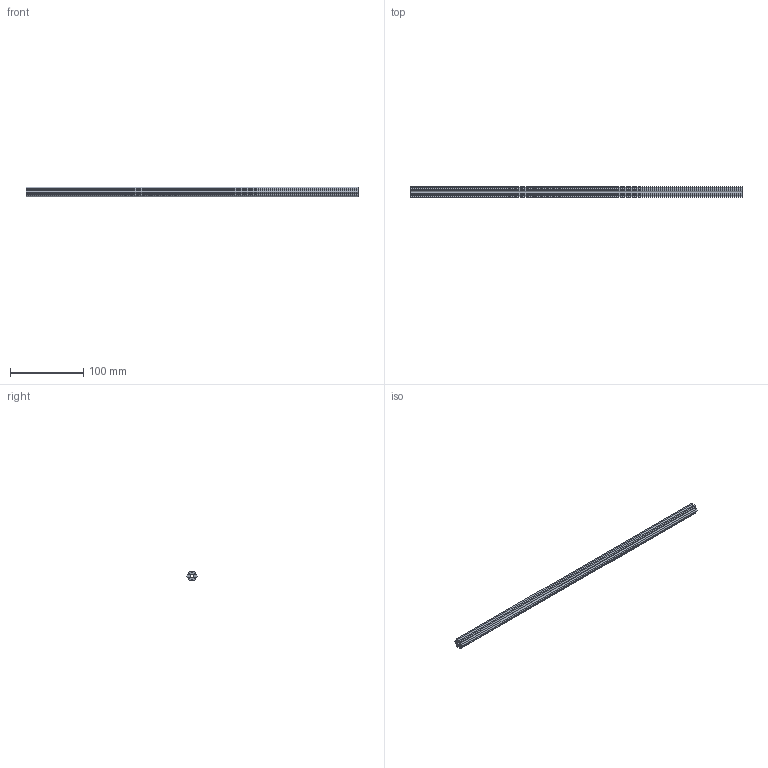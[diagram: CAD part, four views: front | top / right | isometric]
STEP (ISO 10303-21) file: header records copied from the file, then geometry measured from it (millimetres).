
FILE_DESCRIPTION (( 'STEP AP214' ), '1' );
FILE_NAME ('KB-26007-17.8in-Churro.step', '2025-12-23T15:52:25', ( '' ), ( '' ), 'SwSTEP 2.0', 'SolidWorks 2026', '' );
FILE_SCHEMA (( 'AUTOMOTIVE_DESIGN' ));
Length unit declared in the file: inch
Products named in the file (1): KB-26007-17.8in-Churro
Bounding box: 452.12 x 14.67 x 12.7 mm (x, y, z)
Volume: 44006.7 mm3; surface area: 32061.1 mm2
Topology: 1 solids, 1 shells, 28 faces, 78 edges, 52 vertices
Faces by surface type: cylinder 14, plane 14
Entity records: 941 total; most frequent: DIRECTION 164, CARTESIAN_POINT 159, ORIENTED_EDGE 156, EDGE_CURVE 78, AXIS2_PLACEMENT_3D 57, VERTEX_POINT 52, LINE 50, VECTOR 50
